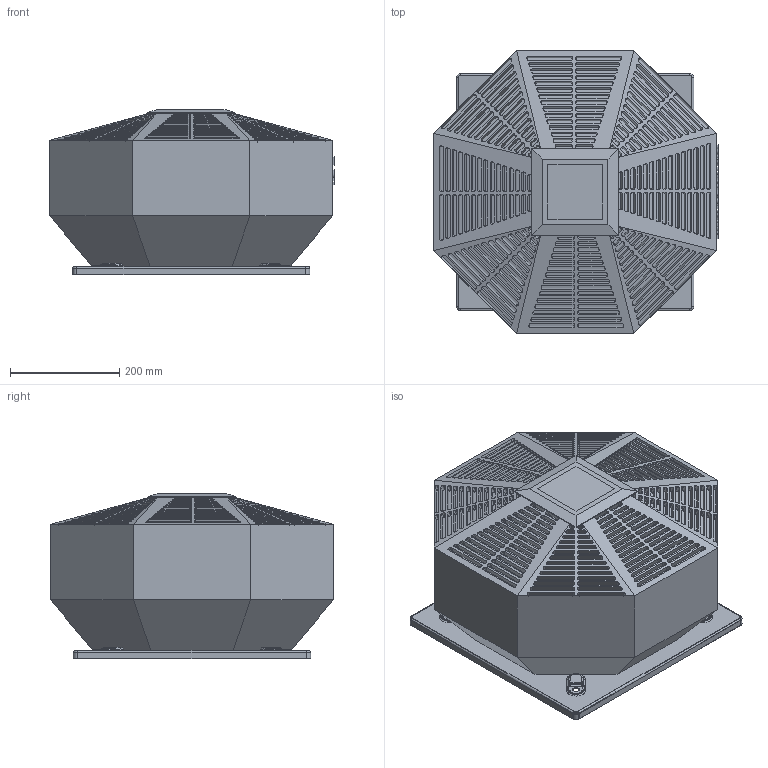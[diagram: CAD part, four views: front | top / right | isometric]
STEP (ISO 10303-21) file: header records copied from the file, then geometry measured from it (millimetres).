
FILE_DESCRIPTION(/* description */ (''),/* implementation_level */ '2;1');
FILE_NAME(/* name */ 'D:\Piotr - Dokumenty\Modele uproszczone\RFV\RFV X-250\komplet\RFV_X_250_X.stp',/* time_stamp */ '2021-03-17T12:12:21+01:00',/* author */ ('Piotr.Nowotniak'),/* organization */ (''),/* preprocessor_version */ 'ST-DEVELOPER v18',/* originating_system */ 'Autodesk Inventor 2020',/* authorisation */ '');
FILE_SCHEMA (('AUTOMOTIVE_DESIGN { 1 0 10303 214 3 1 1 }'));
Products named in the file (1): RFV_RFV_EC_X_250_X
Bounding box: 522 x 519 x 303 mm (x, y, z)
Volume: 50794284 mm3; surface area: 1246842.9 mm2
Topology: 1 solids, 1 shells, 2990 faces, 7953 edges, 5245 vertices
Faces by surface type: plane 1497, cylinder 1013, bspline 439, torus 33, cone 8
Full cylindrical faces by diameter (mm): 12 x4, 245.555 x1
Entity records: 99032 total; most frequent: CARTESIAN_POINT 25082, ORIENTED_EDGE 15906, DIRECTION 14307, EDGE_CURVE 7953, VERTEX_POINT 5245, LINE 4953, VECTOR 4953, AXIS2_PLACEMENT_3D 4677
